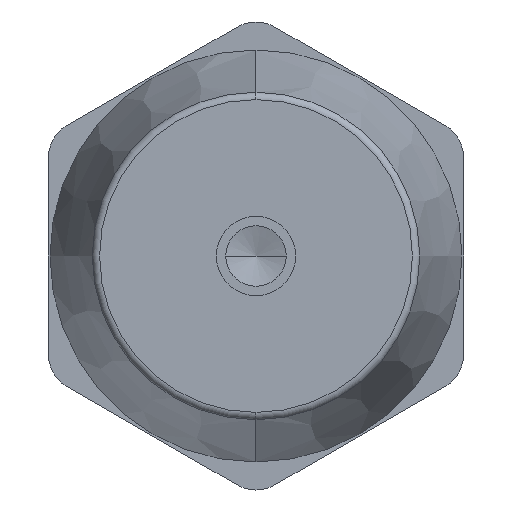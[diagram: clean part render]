
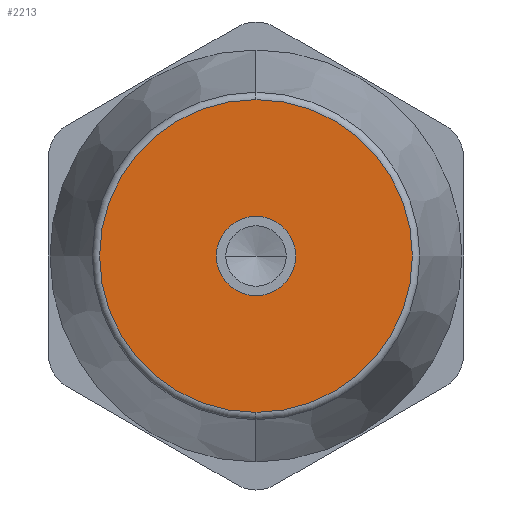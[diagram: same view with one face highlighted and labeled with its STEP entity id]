
A CAD part, front view. The second image highlights one B-rep face of the part: STEP entity #2213.
In plain terms, the highlighted planar face has unit normal (0, -1, 0).
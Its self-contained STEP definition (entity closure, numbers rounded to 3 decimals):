
#45 = VERTEX_POINT ( 'NONE', #768 ) ;
#77 = CIRCLE ( 'NONE', #2060, 20.705 ) ;
#209 = AXIS2_PLACEMENT_3D ( 'NONE', #793, #582, #808 ) ;
#229 = CARTESIAN_POINT ( 'NONE',  ( -5.25, 0., 0. ) ) ;
#262 = CIRCLE ( 'NONE', #892, 5.25 ) ;
#312 = ORIENTED_EDGE ( 'NONE', *, *, #2215, .T. ) ;
#316 = VERTEX_POINT ( 'NONE', #1804 ) ;
#323 = AXIS2_PLACEMENT_3D ( 'NONE', #528, #1273, #1500 ) ;
#349 = VERTEX_POINT ( 'NONE', #893 ) ;
#363 = EDGE_CURVE ( 'NONE', #45, #316, #77, .T. ) ;
#434 = VERTEX_POINT ( 'NONE', #229 ) ;
#528 = CARTESIAN_POINT ( 'NONE',  ( 0., 0., 0. ) ) ;
#549 = DIRECTION ( 'NONE',  ( 0., 1., 0. ) ) ;
#582 = DIRECTION ( 'NONE',  ( 0., 1., 0. ) ) ;
#601 = CIRCLE ( 'NONE', #323, 20.705 ) ;
#768 = CARTESIAN_POINT ( 'NONE',  ( 0., 0., -20.705 ) ) ;
#793 = CARTESIAN_POINT ( 'NONE',  ( 27.5, 0., -15.877 ) ) ;
#802 = DIRECTION ( 'NONE',  ( 0., 0., 1. ) ) ;
#808 = DIRECTION ( 'NONE',  ( 0., 0., 1. ) ) ;
#892 = AXIS2_PLACEMENT_3D ( 'NONE', #985, #549, #2279 ) ;
#893 = CARTESIAN_POINT ( 'NONE',  ( 5.25, 0., 0. ) ) ;
#943 = ORIENTED_EDGE ( 'NONE', *, *, #1777, .T. ) ;
#985 = CARTESIAN_POINT ( 'NONE',  ( 0., 0., 0. ) ) ;
#1002 = PLANE ( 'NONE',  #209 ) ;
#1241 = DIRECTION ( 'NONE',  ( 0., -1., 0. ) ) ;
#1273 = DIRECTION ( 'NONE',  ( 0., -1., 0. ) ) ;
#1299 = AXIS2_PLACEMENT_3D ( 'NONE', #1543, #2069, #1747 ) ;
#1339 = FACE_BOUND ( 'NONE', #1582, .T. ) ;
#1376 = EDGE_LOOP ( 'NONE', ( #943, #2398 ) ) ;
#1421 = EDGE_CURVE ( 'NONE', #349, #434, #262, .T. ) ;
#1500 = DIRECTION ( 'NONE',  ( 0., 0., 1. ) ) ;
#1543 = CARTESIAN_POINT ( 'NONE',  ( 0., 0., 0. ) ) ;
#1582 = EDGE_LOOP ( 'NONE', ( #312, #2052 ) ) ;
#1747 = DIRECTION ( 'NONE',  ( -1., 0., 0. ) ) ;
#1769 = CIRCLE ( 'NONE', #1299, 5.25 ) ;
#1777 = EDGE_CURVE ( 'NONE', #316, #45, #601, .T. ) ;
#1804 = CARTESIAN_POINT ( 'NONE',  ( 0., 0., 20.705 ) ) ;
#2052 = ORIENTED_EDGE ( 'NONE', *, *, #1421, .T. ) ;
#2060 = AXIS2_PLACEMENT_3D ( 'NONE', #2166, #1241, #802 ) ;
#2069 = DIRECTION ( 'NONE',  ( 0., 1., 0. ) ) ;
#2081 = FACE_OUTER_BOUND ( 'NONE', #1376, .T. ) ;
#2166 = CARTESIAN_POINT ( 'NONE',  ( 0., 0., 0. ) ) ;
#2213 = ADVANCED_FACE ( 'NONE', ( #1339, #2081 ), #1002, .F. ) ;
#2215 = EDGE_CURVE ( 'NONE', #434, #349, #1769, .T. ) ;
#2279 = DIRECTION ( 'NONE',  ( -1., 0., 0. ) ) ;
#2398 = ORIENTED_EDGE ( 'NONE', *, *, #363, .T. ) ;
